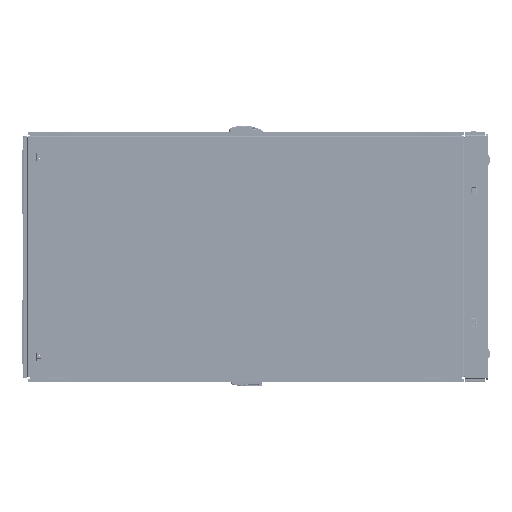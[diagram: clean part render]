
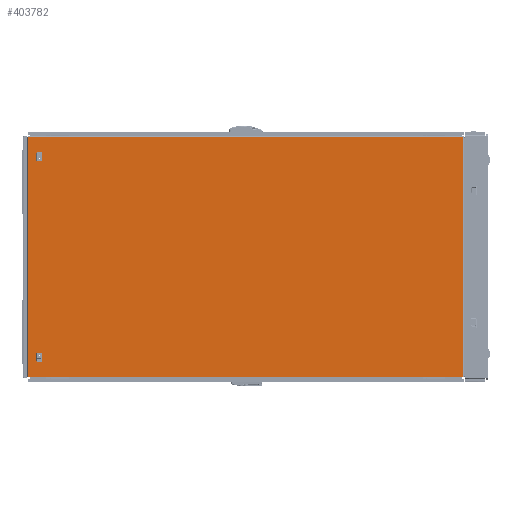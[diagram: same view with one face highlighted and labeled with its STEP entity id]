
A CAD part, left-side view. The second image highlights one B-rep face of the part: STEP entity #403782.
In plain terms, the highlighted planar face has unit normal (-1, 0, 0) as drawn and (0, 0, 1) by its records, which use the part's own axes.
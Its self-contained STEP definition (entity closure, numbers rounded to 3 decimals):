
#1891 = DIRECTION ( 'NONE',  ( 1., 0., 0. ) ) ;
#4503 = CARTESIAN_POINT ( 'NONE',  ( 498.6, 2043.003, 0. ) ) ;
#12144 = ORIENTED_EDGE ( 'NONE', *, *, #256800, .F. ) ;
#12329 = DIRECTION ( 'NONE',  ( -1., 0., 0. ) ) ;
#14980 = LINE ( 'NONE', #203160, #253045 ) ;
#19922 = CARTESIAN_POINT ( 'NONE',  ( 460.5, 2017.603, 0. ) ) ;
#20585 = CARTESIAN_POINT ( 'NONE',  ( 460.5, 2043.003, 0. ) ) ;
#22389 = CARTESIAN_POINT ( 'NONE',  ( -573.779, 2086.206, 0. ) ) ;
#24974 = CARTESIAN_POINT ( 'NONE',  ( 498.6, 2017.603, 0. ) ) ;
#40094 = CARTESIAN_POINT ( 'NONE',  ( -498.6, 2017.603, 0. ) ) ;
#45663 = DIRECTION ( 'NONE',  ( 1., 0., 0. ) ) ;
#49629 = VERTEX_POINT ( 'NONE', #153938 ) ;
#52679 = EDGE_CURVE ( 'NONE', #288500, #342405, #262053, .T. ) ;
#56374 = ORIENTED_EDGE ( 'NONE', *, *, #394726, .F. ) ;
#56547 = CARTESIAN_POINT ( 'NONE',  ( -498.6, 2043.003, 0. ) ) ;
#58173 = LINE ( 'NONE', #65248, #548738 ) ;
#58560 = FACE_BOUND ( 'NONE', #462934, .T. ) ;
#65248 = CARTESIAN_POINT ( 'NONE',  ( -460.5, 2043.003, 0. ) ) ;
#73432 = VECTOR ( 'NONE', #326843, 1000. ) ;
#73910 = DIRECTION ( 'NONE',  ( -1., 0., 0. ) ) ;
#83239 = CARTESIAN_POINT ( 'NONE',  ( 573.779, 1.524, 0. ) ) ;
#88419 = VECTOR ( 'NONE', #111916, 1000. ) ;
#88897 = LINE ( 'NONE', #56547, #109679 ) ;
#90772 = ORIENTED_EDGE ( 'NONE', *, *, #398261, .T. ) ;
#100531 = VECTOR ( 'NONE', #216193, 1000. ) ;
#109679 = VECTOR ( 'NONE', #225907, 1000. ) ;
#111916 = DIRECTION ( 'NONE',  ( 0., -1., 0. ) ) ;
#112923 = LINE ( 'NONE', #441275, #269590 ) ;
#115702 = CARTESIAN_POINT ( 'NONE',  ( -460.5, 2017.603, 0. ) ) ;
#122612 = LINE ( 'NONE', #256927, #340476 ) ;
#135928 = LINE ( 'NONE', #20585, #88419 ) ;
#141698 = CARTESIAN_POINT ( 'NONE',  ( -575.303, 2086.206, 0. ) ) ;
#153938 = CARTESIAN_POINT ( 'NONE',  ( 573.779, 2084.682, 0. ) ) ;
#156371 = EDGE_CURVE ( 'NONE', #168456, #356984, #189589, .T. ) ;
#167761 = EDGE_LOOP ( 'NONE', ( #187234, #12144, #512667, #561735 ) ) ;
#168456 = VERTEX_POINT ( 'NONE', #234201 ) ;
#174255 = ORIENTED_EDGE ( 'NONE', *, *, #465950, .T. ) ;
#187234 = ORIENTED_EDGE ( 'NONE', *, *, #385598, .F. ) ;
#189589 = LINE ( 'NONE', #467799, #346473 ) ;
#203160 = CARTESIAN_POINT ( 'NONE',  ( 498.6, 2043.003, 0. ) ) ;
#205967 = CARTESIAN_POINT ( 'NONE',  ( -573.779, 2084.682, 0. ) ) ;
#216193 = DIRECTION ( 'NONE',  ( -1., 0., 0. ) ) ;
#218260 = EDGE_CURVE ( 'NONE', #542068, #288500, #135928, .T. ) ;
#220416 = DIRECTION ( 'NONE',  ( 0., 1., 0. ) ) ;
#224714 = VERTEX_POINT ( 'NONE', #4503 ) ;
#225429 = PLANE ( 'NONE',  #328589 ) ;
#225907 = DIRECTION ( 'NONE',  ( 0., -1., 0. ) ) ;
#229156 = DIRECTION ( 'NONE',  ( 0., 0., -1. ) ) ;
#234201 = CARTESIAN_POINT ( 'NONE',  ( -460.5, 2043.003, 0. ) ) ;
#239817 = DIRECTION ( 'NONE',  ( 0., 1., 0. ) ) ;
#246228 = VERTEX_POINT ( 'NONE', #40094 ) ;
#253045 = VECTOR ( 'NONE', #73910, 1000. ) ;
#256800 = EDGE_CURVE ( 'NONE', #356984, #246228, #88897, .T. ) ;
#256927 = CARTESIAN_POINT ( 'NONE',  ( -573.779, 1.524, 0. ) ) ;
#261951 = EDGE_CURVE ( 'NONE', #423434, #168456, #58173, .T. ) ;
#262053 = LINE ( 'NONE', #262520, #473532 ) ;
#262520 = CARTESIAN_POINT ( 'NONE',  ( 498.6, 2017.603, 0. ) ) ;
#269590 = VECTOR ( 'NONE', #220416, 1000. ) ;
#279913 = CARTESIAN_POINT ( 'NONE',  ( 573.779, 0., 0. ) ) ;
#288500 = VERTEX_POINT ( 'NONE', #19922 ) ;
#301131 = ORIENTED_EDGE ( 'NONE', *, *, #218260, .F. ) ;
#302886 = EDGE_CURVE ( 'NONE', #49629, #327414, #352375, .T. ) ;
#311331 = CARTESIAN_POINT ( 'NONE',  ( 573.779, 2084.682, 0. ) ) ;
#320895 = EDGE_CURVE ( 'NONE', #409578, #500414, #122612, .T. ) ;
#322614 = ORIENTED_EDGE ( 'NONE', *, *, #52679, .F. ) ;
#324075 = ORIENTED_EDGE ( 'NONE', *, *, #345318, .F. ) ;
#326843 = DIRECTION ( 'NONE',  ( 0., -1., 0. ) ) ;
#327414 = VERTEX_POINT ( 'NONE', #205967 ) ;
#328589 = AXIS2_PLACEMENT_3D ( 'NONE', #141698, #229156, #12329 ) ;
#331058 = FACE_OUTER_BOUND ( 'NONE', #558391, .T. ) ;
#340476 = VECTOR ( 'NONE', #45663, 1000. ) ;
#342405 = VERTEX_POINT ( 'NONE', #24974 ) ;
#345318 = EDGE_CURVE ( 'NONE', #342405, #224714, #112923, .T. ) ;
#345953 = LINE ( 'NONE', #22389, #73432 ) ;
#346473 = VECTOR ( 'NONE', #564817, 1000. ) ;
#352375 = LINE ( 'NONE', #311331, #100531 ) ;
#354360 = CARTESIAN_POINT ( 'NONE',  ( -498.6, 2017.603, 0. ) ) ;
#356984 = VERTEX_POINT ( 'NONE', #432955 ) ;
#358436 = FACE_BOUND ( 'NONE', #167761, .T. ) ;
#365438 = CARTESIAN_POINT ( 'NONE',  ( -573.779, 1.524, 0. ) ) ;
#371689 = DIRECTION ( 'NONE',  ( 0., 1., 0. ) ) ;
#376557 = ORIENTED_EDGE ( 'NONE', *, *, #320895, .T. ) ;
#385598 = EDGE_CURVE ( 'NONE', #246228, #423434, #486561, .T. ) ;
#392272 = ORIENTED_EDGE ( 'NONE', *, *, #302886, .T. ) ;
#394726 = EDGE_CURVE ( 'NONE', #224714, #542068, #14980, .T. ) ;
#398261 = EDGE_CURVE ( 'NONE', #500414, #49629, #512608, .T. ) ;
#403782 = ADVANCED_FACE ( 'NONE', ( #58560, #358436, #331058 ), #225429, .F. ) ;
#409578 = VERTEX_POINT ( 'NONE', #365438 ) ;
#423434 = VERTEX_POINT ( 'NONE', #115702 ) ;
#432955 = CARTESIAN_POINT ( 'NONE',  ( -498.6, 2043.003, 0. ) ) ;
#441275 = CARTESIAN_POINT ( 'NONE',  ( 498.6, 2043.003, 0. ) ) ;
#445605 = DIRECTION ( 'NONE',  ( 1., 0., 0. ) ) ;
#452608 = VECTOR ( 'NONE', #445605, 1000. ) ;
#462934 = EDGE_LOOP ( 'NONE', ( #301131, #56374, #324075, #322614 ) ) ;
#465950 = EDGE_CURVE ( 'NONE', #327414, #409578, #345953, .T. ) ;
#467799 = CARTESIAN_POINT ( 'NONE',  ( -498.6, 2043.003, 0. ) ) ;
#473532 = VECTOR ( 'NONE', #1891, 1000. ) ;
#478703 = VECTOR ( 'NONE', #239817, 1000. ) ;
#484289 = CARTESIAN_POINT ( 'NONE',  ( 460.5, 2043.003, 0. ) ) ;
#486561 = LINE ( 'NONE', #354360, #452608 ) ;
#500414 = VERTEX_POINT ( 'NONE', #83239 ) ;
#512608 = LINE ( 'NONE', #279913, #478703 ) ;
#512667 = ORIENTED_EDGE ( 'NONE', *, *, #156371, .F. ) ;
#542068 = VERTEX_POINT ( 'NONE', #484289 ) ;
#548738 = VECTOR ( 'NONE', #371689, 1000. ) ;
#558391 = EDGE_LOOP ( 'NONE', ( #392272, #174255, #376557, #90772 ) ) ;
#561735 = ORIENTED_EDGE ( 'NONE', *, *, #261951, .F. ) ;
#564817 = DIRECTION ( 'NONE',  ( -1., 0., 0. ) ) ;
